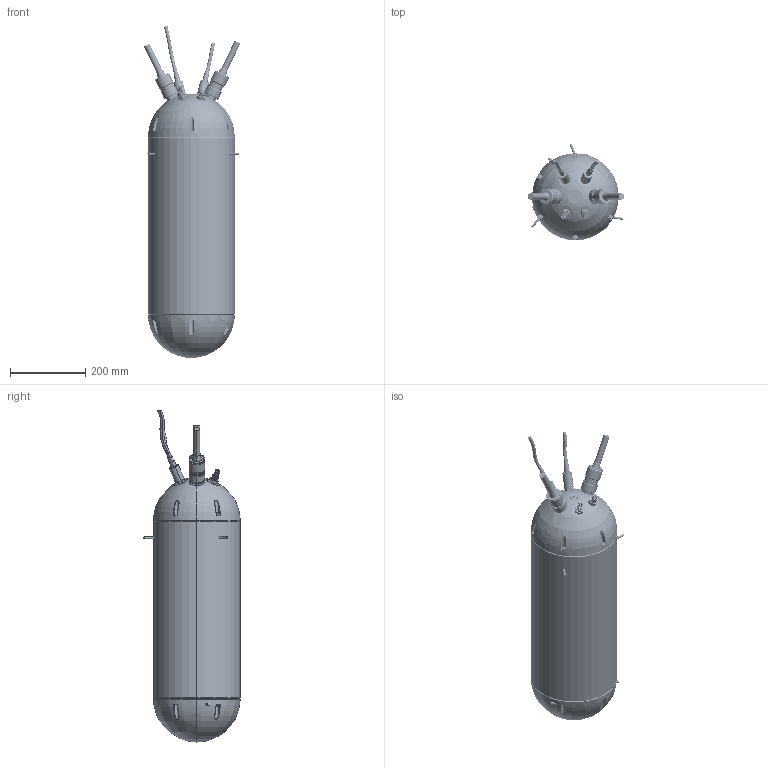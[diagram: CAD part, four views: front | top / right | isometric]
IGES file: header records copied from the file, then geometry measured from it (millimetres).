
Start section: SolidWorks IGES file using analytic representation for surfaces
Global section: file name: D:\Shared\ericS\8_inch\Rebuild\8inchbottleassy.IGS; native system: SolidWorks 2009; preprocessor: SolidWorks 2009; author: eschug; date: 100804.104158; units: millimetre
Bounding box: 256.17 x 255.62 x 881.36 mm (x, y, z)
Surface area: 1621258.3 mm2 (no closed solid volume)
Topology: 0 solids, 0 shells, 1680 faces, 28817 edges, 28776 vertices
Faces by surface type: revolution 938, bspline 742
